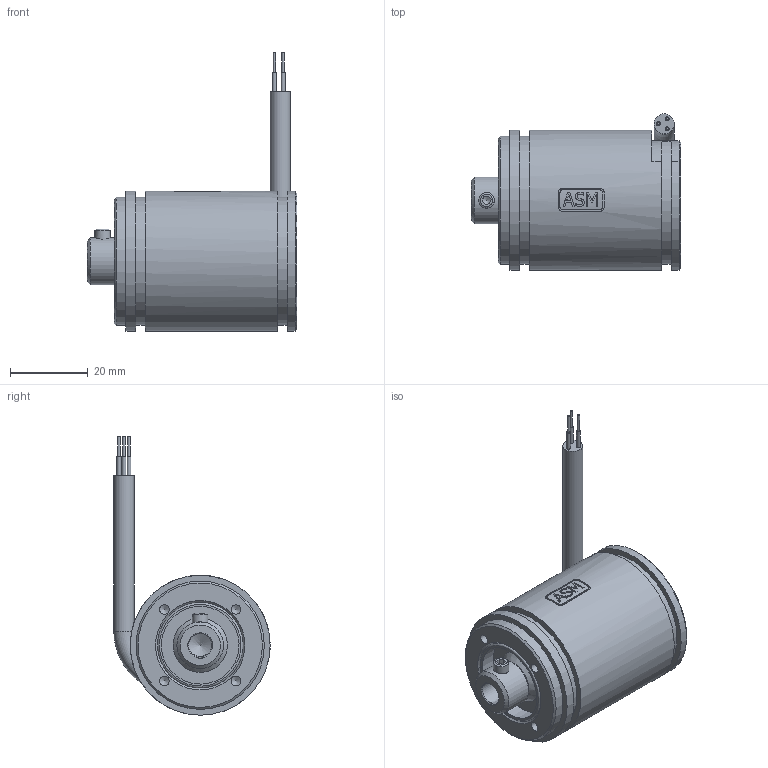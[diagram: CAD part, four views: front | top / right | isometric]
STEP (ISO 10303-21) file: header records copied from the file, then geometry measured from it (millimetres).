
FILE_DESCRIPTION((''),'2;1');
FILE_NAME('K:\Daten\pras3-kab.stp','2010-03-08T17:50:14',('kamp'),(''),'Autodesk Inventor 2008','Autodesk Inventor 2008','');
FILE_SCHEMA(('AUTOMOTIVE_DESIGN { 1 0 10303 214 1 1 1 1 }'));
Length unit declared in the file: millimetre
Products named in the file (1): Bauteil19
Bounding box: 54 x 40.23 x 71.63 mm (x, y, z)
Volume: 46074.2 mm3; surface area: 10389.3 mm2
Topology: 1 solids, 1 shells, 154 faces, 381 edges, 250 vertices
Faces by surface type: plane 73, cylinder 37, bspline 28, cone 13, torus 3
Full cylindrical faces by diameter (mm): 0.6 x3, 1 x3, 4 x1, 5.2 x2, 10 x1, 12 x1, 14 x1, 20 x1, 21 x1, 33 x2, 36 x2
Entity records: 4937 total; most frequent: CARTESIAN_POINT 1489, ORIENTED_EDGE 646, DIRECTION 628, EDGE_CURVE 323, AXIS2_PLACEMENT_3D 237, VERTEX_POINT 232, EDGE_LOOP 215, FACE_OUTER_BOUND 154
